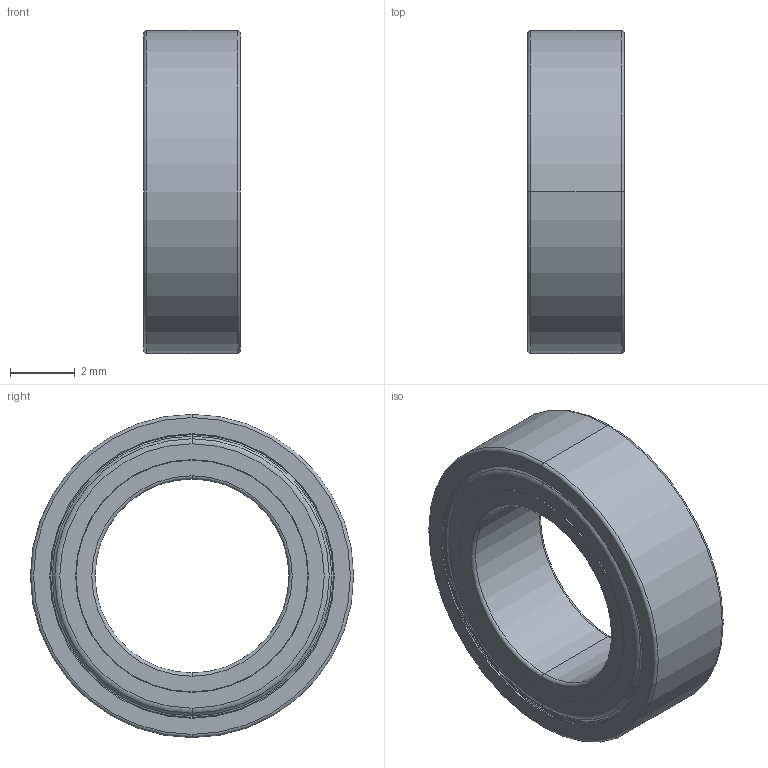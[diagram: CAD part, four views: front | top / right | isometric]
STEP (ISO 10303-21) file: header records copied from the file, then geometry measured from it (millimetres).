
FILE_DESCRIPTION((''),'2;1');
FILE_NAME('MR106ZZ1_ASM_SW0001','2025-12-19T16:55:05',('qinghui.yi'),(''),'CREO PARAMETRIC BY PTC INC, 2019164','CREO PARAMETRIC BY PTC INC, 2019164','');
FILE_SCHEMA(('CONFIG_CONTROL_DESIGN','SHAPE_APPEARANCE_LAYERS_GROUPS'));
Length unit declared in the file: millimetre
Products named in the file (1): MR106ZZ1_ASM_SW0001
Bounding box: 3 x 10 x 10 mm (x, y, z)
Volume: 94.4 mm3; surface area: 456.1 mm2
Topology: 2 solids, 2 shells, 88 faces, 178 edges, 104 vertices
Faces by surface type: torus 34, cylinder 24, cone 16, plane 14
Entity records: 2575 total; most frequent: DIRECTION 492, CARTESIAN_POINT 370, ORIENTED_EDGE 356, AXIS2_PLACEMENT_3D 226, COLOUR_RGB 196, EDGE_CURVE 178, CIRCLE 138, VERTEX_POINT 104
